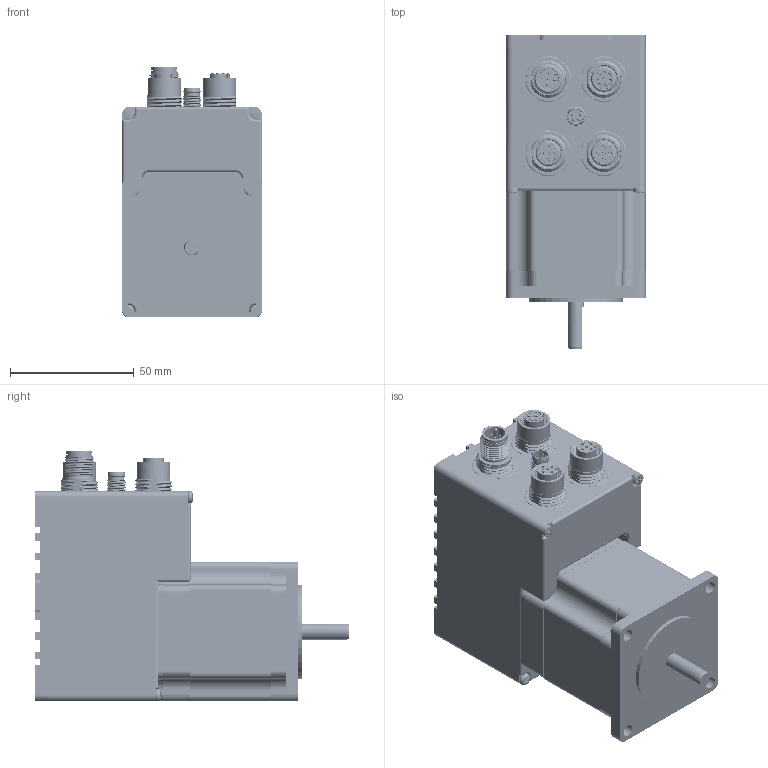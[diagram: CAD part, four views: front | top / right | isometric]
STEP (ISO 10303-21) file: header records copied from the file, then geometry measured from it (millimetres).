
FILE_DESCRIPTION(/* description */ ('Unknown'),/* implementation_level */ '2;1');
FILE_NAME(/* name */ 'SM4D260PC275BM0',/* time_stamp */ '2021-08-31T11:47:30+02:00',/* author */ ('Unknown'),/* organization */ ('Unknown'),/* preprocessor_version */ 'ST-DEVELOPER v16.7',/* originating_system */ 'Solid Edge',/* authorisation */ 'Unknown');
FILE_SCHEMA (('AUTOMOTIVE_DESIGN {1 0 10303 214 3 1 1}'));
Products named in the file (22): SM4D2 con IMD12; dissipatore_imd12_2prot; scatola_sm4d2xx_imd12_2prot; imd12_guarnizione_dissipatore; mica_imd12; hexdist_MF_M2e5 x 12mm; tcc_M2e5x05; tcc_M3x08; imd12_piana_motore; 8-04pmms-sf7001; 8-04PMMS-SF7001; MT23HE22042A4Z1; ASM0001_ASM_1_ASM; 123_1; MT23HE22028E4LVFRONTENDBELL_2; MT23HE22028E4LVREARENDBELL_2; MT23HE22028E4LVSHAFT_1; M12A-05PFFS-SF8001-STP; M12A-05PMMS-SF8001-STP; M12A-08PFFS-SF8001-STP; tcc_M2e5x60; tcc_M2e5x47
Assembly tree (33 placements, depth 4):
  SM4D2 con IMD12
    dissipatore_imd12_2prot
    scatola_sm4d2xx_imd12_2prot
    imd12_guarnizione_dissipatore
    mica_imd12  x2
    hexdist_MF_M2e5 x 12mm  x3
    tcc_M2e5x05  x4
    tcc_M3x08  x4
    imd12_piana_motore
    8-04pmms-sf7001
      8-04PMMS-SF7001
    MT23HE22042A4Z1
      ASM0001_ASM_1_ASM
        123_1
        MT23HE22028E4LVFRONTENDBELL_2
        MT23HE22028E4LVREARENDBELL_2
        MT23HE22028E4LVSHAFT_1
    M12A-05PFFS-SF8001-STP  x2
    M12A-05PMMS-SF8001-STP
    M12A-08PFFS-SF8001-STP
    tcc_M2e5x60  x2
    tcc_M2e5x47  x2
Bounding box: 56.4 x 127.08 x 101.4 mm (x, y, z)
Volume: 165976.2 mm3; surface area: 123858.8 mm2
Topology: 33 solids, 38 shells, 4280 faces, 11667 edges, 7725 vertices
Faces by surface type: plane 2006, cylinder 1119, bspline 797, cone 243, torus 72, sphere 43
Full cylindrical faces by diameter (mm): 0.8 x12, 1 x32, 1.2 x14, 1.25 x8, 1.4 x4, 1.42 x8, 1.45 x5, 1.5 x4, 1.55 x10, 1.62 x10, 1.78 x8, 2.05 x4, 2.5 x22, 2.7 x4, 3 x20, 5 x13, 5.75 x3, 5.8 x1, 6 x4, 6.35 x1, 6.5 x1, 6.9 x1, 8 x1, 8.2 x3, 8.3 x1, 8.6 x1, 9.5 x5, 9.6 x2, 9.8 x3, 10.6 x2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
Entity records: 167131 total; most frequent: CARTESIAN_POINT 74480, ORIENTED_EDGE 17712, DIRECTION 13251, EDGE_CURVE 8860, VERTEX_POINT 6031, LINE 4489, VECTOR 4489, AXIS2_PLACEMENT_3D 4381
